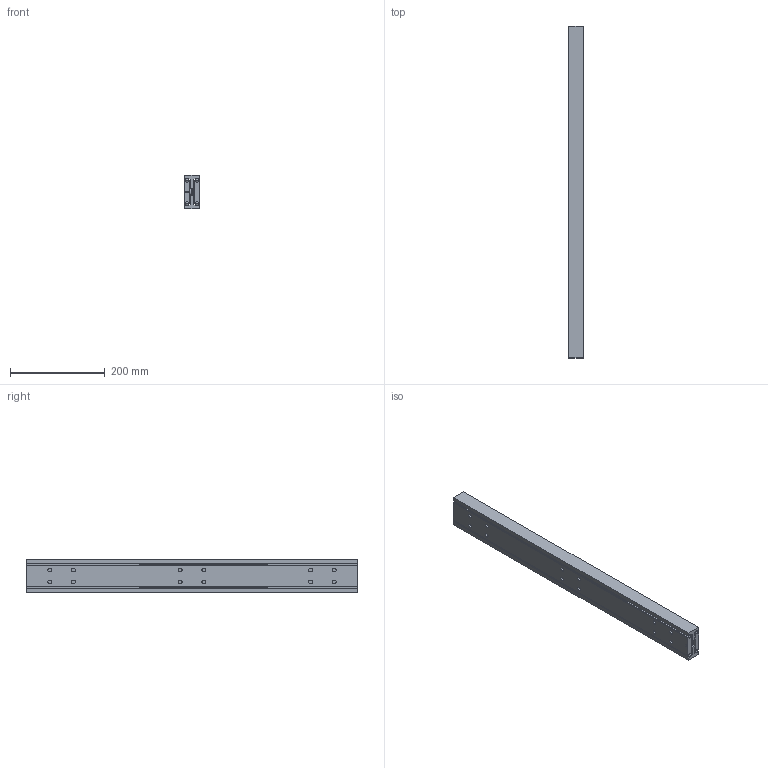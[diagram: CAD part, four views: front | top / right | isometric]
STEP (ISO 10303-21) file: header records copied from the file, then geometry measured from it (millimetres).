
FILE_DESCRIPTION(/* description */ (''),/* implementation_level */ '2;1');
FILE_NAME(/* name */ 'D:\Zeichnungen Schienen Komplett\MX-DTP70\MX-DTP70.070\MX-DTP70.070_eingefahren.step',/* time_stamp */ '2022-03-03T13:04:29+01:00',/* author */ ('zmile'),/* organization */ (''),/* preprocessor_version */ 'ST-DEVELOPER v16.13',/* originating_system */ 'AutoCAD Mechanical',/* authorisation */ '');
FILE_SCHEMA (('AUTOMOTIVE_DESIGN { 1 0 10303 214 3 1 1 }'));
Length unit declared in the file: millimetre
Products named in the file (1): Product
Bounding box: 32 x 700 x 70 mm (x, y, z)
Volume: 1225178.3 mm3; surface area: 424389.9 mm2
Topology: 25 solids, 25 shells, 246 faces, 604 edges, 412 vertices
Faces by surface type: plane 104, cylinder 74, sphere 54, bspline 8, torus 6
Full cylindrical faces by diameter (mm): 8 x24, 9 x36, 13 x2
Entity records: 12961 total; most frequent: CARTESIAN_POINT 7521, DIRECTION 1118, ORIENTED_EDGE 888, EDGE_LOOP 456, AXIS2_PLACEMENT_3D 453, EDGE_CURVE 444, VERTEX_POINT 374, FACE_OUTER_BOUND 246
